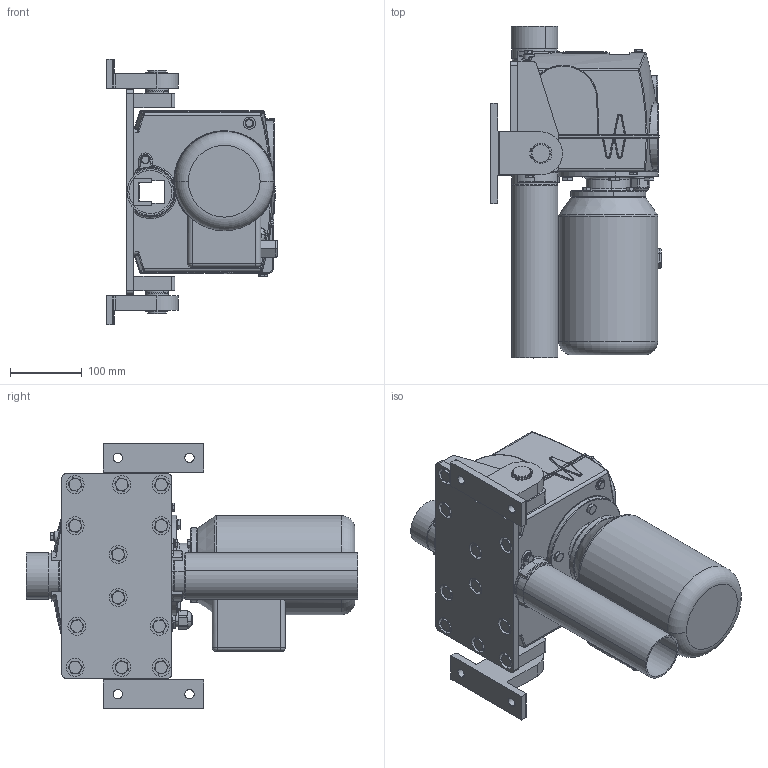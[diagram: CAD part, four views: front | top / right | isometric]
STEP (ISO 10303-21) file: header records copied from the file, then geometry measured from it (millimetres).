
FILE_DESCRIPTION (( 'STEP AP214' ), '1' );
FILE_NAME ('010225985_EZW_64_3D__DE_11264.ohne_Art.-Nr..STEP', '2024-02-19T11:08:37', ( '' ), ( '' ), 'SwSTEP 2.0', 'SolidWorks 2022', '' );
FILE_SCHEMA (( 'AUTOMOTIVE_DESIGN' ));
Length unit declared in the file: millimetre
Products named in the file (31): 010225837_EZW_64_3D__DE; 010225985_EZW_64_3D__DE_11264.ohne_Art.-Nr.; Schraube_10002078; Elektroteil_10007290; 010198258_EWA_3D-Modell_DE_10198258; Elektroteil_10028709; 010200591_EWA_12_3D__DE_ohne Inhalt; Scheibe_10002061; Konsole_10133439; 010225970_EZW_64_3D__DE_400V Standard; Dichtelement_10001564; Konsole_10103399; 010191515_Normteil_Kaufteil_3D-Modell_DE_10191515; Schraube_10057197; Montageplatte_10103438; Gleitlager_10042901; Konsole_10133437; Konsole_10126975; 010200592_EWA_12_3D__DE; Schraube_10028710; Konsole_10103435; Führungselement_10042892; Elektroteil_10001639; Achse_10103377; Sicherungselement_10007714; Schraube_10018291; 010225960_EZW_64_3D__DE; Elektroteil_10001640; Hülse_10045638; Kennzeichnung_10001854; Hülse_10085599
Assembly tree (58 placements, depth 4):
  010225985_EZW_64_3D__DE_11264.ohne_Art.-Nr.
    010225970_EZW_64_3D__DE_400V Standard
      010225837_EZW_64_3D__DE
      Hülse_10085599
      Hülse_10045638
      Kennzeichnung_10001854
      Führungselement_10042892  x2
      Elektroteil_10028709
      Elektroteil_10007290
        Elektroteil_10001639
        Elektroteil_10001640
      Schraube_10018291  x2
      Scheibe_10002061  x4
      010191515_Normteil_Kaufteil_3D-Modell_DE_10191515  x4
      Schraube_10057197  x4
      Dichtelement_10001564
      010200591_EWA_12_3D__DE_ohne Inhalt
        010200592_EWA_12_3D__DE
        010198258_EWA_3D-Modell_DE_10198258
        Schraube_10002078  x4
    Schraube_10028710  x12
    Montageplatte_10103438
    Konsole_10133439
      Konsole_10126975
      Gleitlager_10042901
    Konsole_10133437
      Konsole_10126975
      Gleitlager_10042901
    Konsole_10103435  x2
      Achse_10103377
      Konsole_10103399
      Sicherungselement_10007714
    010225960_EZW_64_3D__DE
Bounding box: 238 x 463 x 370 mm (x, y, z)
Volume: 11598496.1 mm3; surface area: 862810.1 mm2
Topology: 54 solids, 54 shells, 2919 faces, 6799 edges, 4065 vertices
Faces by surface type: plane 917, cylinder 869, torus 471, bspline 461, cone 152, sphere 49
Entity records: 85608 total; most frequent: CARTESIAN_POINT 34668, ORIENTED_EDGE 10288, DIRECTION 9811, EDGE_CURVE 5144, AXIS2_PLACEMENT_3D 4003, VERTEX_POINT 3114, EDGE_LOOP 2368, CIRCLE 2217
